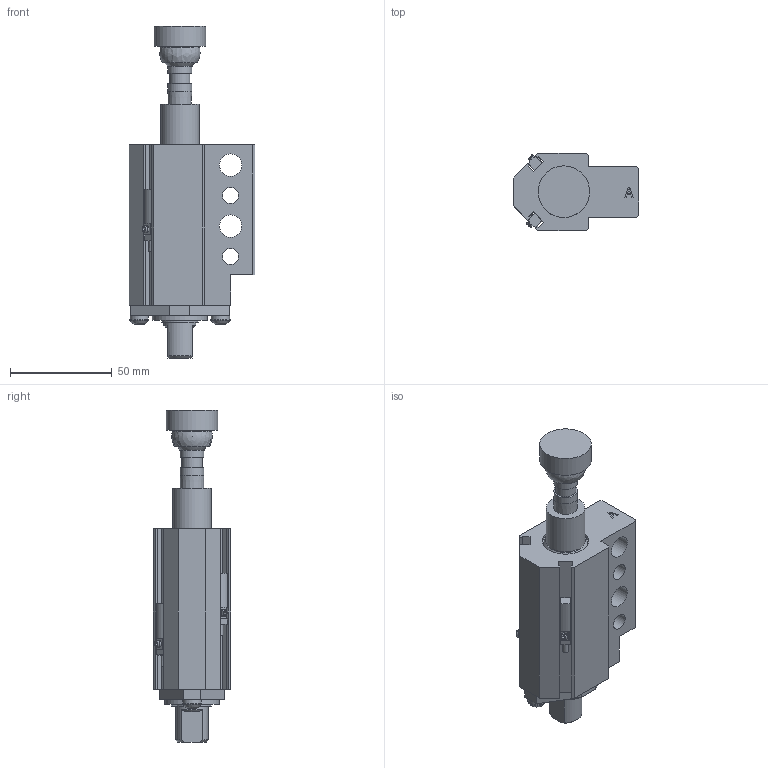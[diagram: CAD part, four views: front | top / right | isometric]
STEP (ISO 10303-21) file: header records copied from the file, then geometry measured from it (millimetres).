
FILE_DESCRIPTION(/* description */ ('MINI PASS THRU GROUND BLOCK'),/* implementation_level */ '2;1');
FILE_NAME(/* name */ 'C:\Vault Workspace\CAD\Welker\Cylinders\GBM\GBMDAL3.stp',/* time_stamp */ '2021-06-25T07:39:29-04:00',/* author */ ('KPL'),/* organization */ (''),/* preprocessor_version */ 'ST-DEVELOPER v18.1',/* originating_system */ 'Autodesk Inventor 2020',/* authorisation */ '');
FILE_SCHEMA (('AUTOMOTIVE_DESIGN { 1 0 10303 214 3 1 1 }'));
Products named in the file (11): GBML01; 91590A126; 96100A152; L3 Sensor 1; M5X0.8-10 BHCS; NL5; GBME01A; GBME02; GBME04; SN-148; AN-05U2145
Assembly tree (13 placements, depth 2):
  GBML01
    91590A126
    96100A152
    L3 Sensor 1  x2
    M5X0.8-10 BHCS  x2
    NL5  x2
    GBME01A
    GBME02
    GBME04
    SN-148
    AN-05U2145
Bounding box: 62 x 38.1 x 163.5 mm (x, y, z)
Volume: 133343.5 mm3; surface area: 50215.5 mm2
Topology: 13 solids, 13 shells, 437 faces, 1198 edges, 802 vertices
Faces by surface type: plane 312, cylinder 97, cone 18, torus 4, sphere 4, bspline 2
Full cylindrical faces by diameter (mm): 1.194 x2, 2.9 x2, 4.134 x2, 5 x2, 5.4 x2, 5.5 x2, 6.647 x1, 8 x2, 9 x2, 9.5 x2, 10 x1, 11 x2, 11.76 x2, 14.935 x1, 15.875 x3, 16.383 x1, 19.05 x1, 19.177 x1, 22.225 x2, 22.784 x1, 24.613 x1, 25.4 x1, 25.654 x1, 25.705 x1, 26.987 x1, 28.591 x1, 28.667 x1
Entity records: 9983 total; most frequent: CARTESIAN_POINT 1738, DIRECTION 1662, ORIENTED_EDGE 1576, EDGE_CURVE 788, AXIS2_PLACEMENT_3D 573, VERTEX_POINT 539, LINE 516, VECTOR 516
